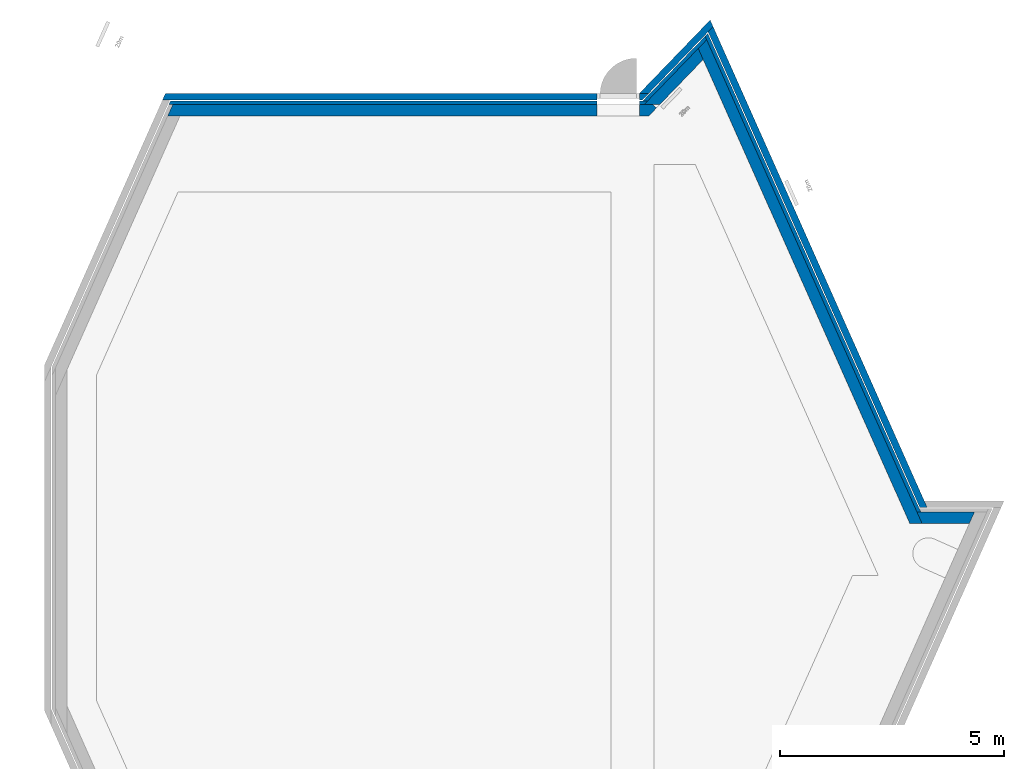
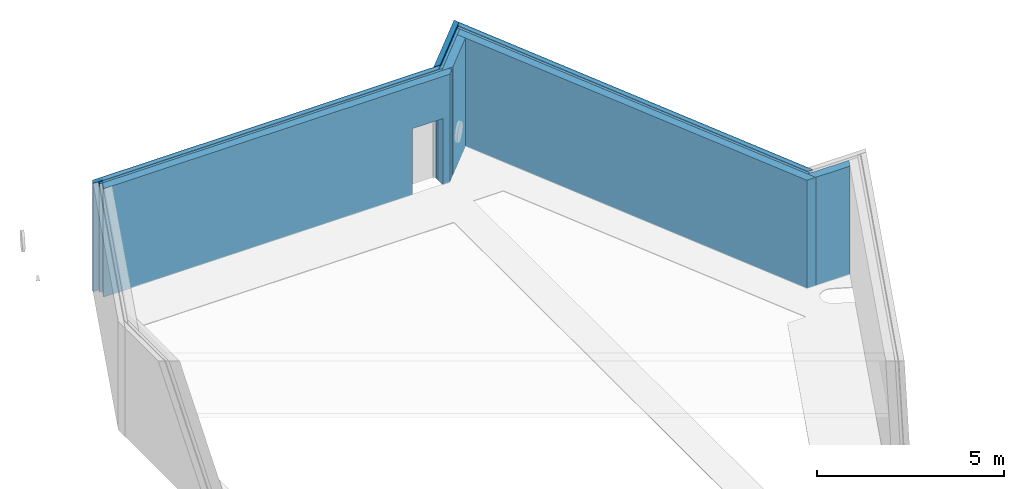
# One storey, part 2 of 4: 10 walls, 4 openings.
"""IFC2X3 building model written with IfcOpenShell, lengths in millimetres."""

from ifc_helpers import new_model, entity, si_unit, converted_unit, derived_unit, direction, frame, frame_2d, origin, place, context, subcontext, project, spatial, polyline, rectangle, outline, extrude, clip, halfspace, faceted_brep, material, layer, layer_set, layer_usage, type_object, element, save


model = new_model("IFC2X3")

# Units and contexts
model_context = context("Model", 3, precision=0.01, world=origin(), true_north=direction((6.123031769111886e-17, 1.0)))
body_context = subcontext(model_context, "Body", "Model", "MODEL_VIEW")
ifc_project = project(units=[si_unit("LENGTHUNIT", "METRE", prefix="MILLI"), si_unit("AREAUNIT", "SQUARE_METRE"), si_unit("VOLUMEUNIT", "CUBIC_METRE"), converted_unit("PLANEANGLEUNIT", "DEGREE", entity("IfcRatioMeasure", 0.017453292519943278), si_unit("PLANEANGLEUNIT", "RADIAN"), dimensions=[0, 0, 0, 0, 0, 0, 0]), si_unit("MASSUNIT", "GRAM", prefix="KILO"), derived_unit("MASSDENSITYUNIT", [(si_unit("MASSUNIT", "GRAM", prefix="KILO"), 1), (si_unit("LENGTHUNIT", "METRE"), -3)]), derived_unit("MOMENTOFINERTIAUNIT", [(si_unit("LENGTHUNIT", "METRE"), 4)]), si_unit("TIMEUNIT", "SECOND"), si_unit("FREQUENCYUNIT", "HERTZ"), si_unit("THERMODYNAMICTEMPERATUREUNIT", "DEGREE_CELSIUS"), derived_unit("THERMALTRANSMITTANCEUNIT", [(si_unit("MASSUNIT", "GRAM", prefix="KILO"), 1), (si_unit("THERMODYNAMICTEMPERATUREUNIT", "KELVIN"), -1), (si_unit("TIMEUNIT", "SECOND"), -3)]), derived_unit("VOLUMETRICFLOWRATEUNIT", [(si_unit("LENGTHUNIT", "METRE"), 3), (si_unit("TIMEUNIT", "SECOND"), -1)]), derived_unit("MASSFLOWRATEUNIT", [(si_unit("MASSUNIT", "GRAM", prefix="KILO"), 1), (si_unit("TIMEUNIT", "SECOND"), -1)]), derived_unit("ROTATIONALFREQUENCYUNIT", [(si_unit("TIMEUNIT", "SECOND"), -1)]), si_unit("ELECTRICCURRENTUNIT", "AMPERE"), si_unit("ELECTRICVOLTAGEUNIT", "VOLT"), si_unit("POWERUNIT", "WATT"), si_unit("FORCEUNIT", "NEWTON", prefix="KILO"), si_unit("ILLUMINANCEUNIT", "LUX"), si_unit("LUMINOUSFLUXUNIT", "LUMEN"), si_unit("LUMINOUSINTENSITYUNIT", "CANDELA"), derived_unit("USERDEFINED", [(si_unit("MASSUNIT", "GRAM", prefix="KILO"), -1), (si_unit("LENGTHUNIT", "METRE"), -2), (si_unit("TIMEUNIT", "SECOND"), 3), (si_unit("LUMINOUSFLUXUNIT", "LUMEN"), 1)]), derived_unit("SOUNDPOWERUNIT", [(si_unit("MASSUNIT", "GRAM", prefix="KILO"), 1), (si_unit("LENGTHUNIT", "METRE"), 2), (si_unit("TIMEUNIT", "SECOND"), -3)]), derived_unit("SOUNDPRESSUREUNIT", [(si_unit("MASSUNIT", "GRAM", prefix="KILO"), 1), (si_unit("LENGTHUNIT", "METRE"), -1), (si_unit("TIMEUNIT", "SECOND"), -2)]), derived_unit("LINEARVELOCITYUNIT", [(si_unit("LENGTHUNIT", "METRE"), 1), (si_unit("TIMEUNIT", "SECOND"), -1)]), si_unit("PRESSUREUNIT", "PASCAL"), derived_unit("USERDEFINED", [(si_unit("LENGTHUNIT", "METRE"), -2), (si_unit("MASSUNIT", "GRAM", prefix="KILO"), 1), (si_unit("TIMEUNIT", "SECOND"), -2)]), derived_unit("LINEARFORCEUNIT", [(si_unit("MASSUNIT", "GRAM", prefix="KILO"), 1), (si_unit("LENGTHUNIT", "METRE"), 1), (si_unit("TIMEUNIT", "SECOND"), -2), (si_unit("LENGTHUNIT", "METRE"), -1)]), derived_unit("PLANARFORCEUNIT", [(si_unit("MASSUNIT", "GRAM", prefix="KILO"), 1), (si_unit("LENGTHUNIT", "METRE"), 1), (si_unit("TIMEUNIT", "SECOND"), -2), (si_unit("LENGTHUNIT", "METRE"), -2)])], contexts=[model_context])

# Site, building, storey
site_placement = place(None, frame((-10000.0, -10000.0, 0.0)))
site = spatial("IfcSite", under=ifc_project, at=site_placement, Name="Default", CompositionType="ELEMENT")
building_placement = place(site_placement, origin())
building = spatial("IfcBuilding", under=site, at=building_placement, CompositionType="ELEMENT")
storey_placement = place(building_placement, frame((0.0, 0.0, 12600.0)))
storey = spatial("IfcBuildingStorey", under=building, at=storey_placement, Name="03 3e verdieping", CompositionType="ELEMENT", Elevation=12600.0)

# Wall, opening
ifc_material_1 = material(Name="NLRS_beton ihwg")
ifc_layer_1 = layer(ifc_material_1, 250.00000000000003)
ifc_layer_set_1 = layer_set([ifc_layer_1], Name="Basic Wall:NLRS_21_WA_beton 250mm_ags")
ifc_layer_usage_1 = layer_usage(ifc_layer_set_1, "AXIS2", "NEGATIVE", 125.00000000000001)
wall_type_1 = type_object("IfcWallType", Name="Basic Wall:NLRS_21_WA_beton 250mm_ags", PredefinedType="STANDARD", material=ifc_layer_set_1)
wall_1_placement = place(storey_placement, frame((28023.813445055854, 49277.0, 0.0)))
wall_1 = element("IfcWallStandardCase", 1, at=wall_1_placement, inside=storey, type_object=wall_type_1, material=ifc_layer_usage_1, Name="Basic Wall:NLRS_21_WA_beton 250mm_ags", ObjectType="Basic Wall:NLRS_21_WA_beton 250mm_ags", context=body_context, shape_type="Clipping", body=[
    clip(extrude(outline(polyline([(10722.450231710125, -125.0), (10890.335858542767, 48.989062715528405), (10811.561564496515, 125.0), (10616.272859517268, 125.0), (111.30717132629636, 125.0), (0.0, -125.0), (273.65906962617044, -125.0), (10722.450231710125, -125.0)])), origin(), (0.0, 0.0, 1.0), 3549.9999999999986), halfspace(frame((0.0, 0.0, -3600.0)), True)),
])
opening_1_placement = place(wall_1_placement, origin())
element("IfcOpeningElement", 2, at=opening_1_placement, cuts=wall_1, Name="Basic Wall:NLRS_21_WA_beton 250mm_ags", ObjectType="Opening", context=body_context, shape_type="SweptSolid", body=[
    extrude(rectangle(XDim=2220.0, YDim=939.9999999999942, at=frame_2d((-1.1368683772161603e-12, 0.0), x_axis=(1.0, 0.0))), frame((10037.45023171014, -125.0, 1060.0), z_axis=(0.0, 1.0, 0.0), x_axis=(0.0, 0.0, -1.0)), (0.0, 0.0, 1.0), 249.99999999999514),
])

# Walls
wall_2_placement = place(storey_placement, frame((39918.91729617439, 50794.82510490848, 0.0), z_axis=(0.0, 0.0, 1.0), x_axis=(0.40673664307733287, -0.9135454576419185, 0.0)))
element("IfcWall", 3, at=wall_2_placement, inside=storey, type_object=wall_type_1, Name="Basic Wall:NLRS_21_WA_beton 250mm_ags", ObjectType="Basic Wall:NLRS_21_WA_beton 250mm_ags", context=body_context, shape_type="Brep", body=[
    faceted_brep([(11686.34128409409, -125.0, 3550.0), (370.79925144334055, -125.0, 3550.0), (101.12221718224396, -125.0, 3550.0), (101.12221718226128, -125.0, 0.0), (11686.34128409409, -125.0, 0.0), (0.0, 125.0, 3550.0), (11523.989385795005, 125.0, 3550.0), (11797.64845542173, 125.0, 3550.0), (11797.64845542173, 125.0, 0.0), (0.0, 125.0, 0.0)], [[[0, 1, 2, 3, 4]], [[5, 6, 7, 8, 9]], [[2, 5, 9, 3]], [[7, 0, 4, 8]], [[1, 0, 7, 6, 5, 2]], [[4, 3, 9, 8]]]),
])
wall_3_placement = place(storey_placement, frame((39935.80622246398, 50564.806749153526, 0.0), z_axis=(0.0, 0.0, 1.0), x_axis=(-0.6943722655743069, -0.7196159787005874, 0.0)))
element("IfcWall", 4, at=wall_3_placement, inside=storey, type_object=wall_type_1, Name="Basic Wall:NLRS_21_WA_beton 250mm_ags", ObjectType="Basic Wall:NLRS_21_WA_beton 250mm_ags", context=body_context, shape_type="Brep", body=[
    faceted_brep([(1736.48629176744, -125.0, 3550.0), (0.0, -125.0, 3550.0), (0.0, -125.0, 0.0), (1736.48629176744, -125.0, 0.0), (101.1222171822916, 125.0, 3550.0), (1495.2561474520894, 125.0, 3550.0), (1495.2561474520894, 125.0, 0.0), (101.1222171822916, 125.0, 0.0)], [[[0, 1, 2, 3]], [[4, 5, 6, 7]], [[1, 0, 5, 4]], [[1, 4, 7, 2]], [[5, 0, 3, 6]], [[3, 2, 7, 6]]]),
])
wall_4_placement = place(storey_placement, frame((44720.339236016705, 40192.97902798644, 0.0)))
element("IfcWall", 5, at=wall_4_placement, inside=storey, type_object=wall_type_1, Name="Basic Wall:NLRS_21_WA_beton 250mm_ags", ObjectType="Basic Wall:NLRS_21_WA_beton 250mm_ags", context=body_context, shape_type="Brep", body=[
    faceted_brep([(1168.2343786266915, -125.0, 3550.0), (111.30717132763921, -125.0, 3550.0), (111.30717132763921, -125.0, 0.0), (1168.2343786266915, -125.0, 0.0), (0.0, 125.0, 3550.0), (1279.5415499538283, 125.0, 3550.0), (1279.5415499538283, 125.0, 0.0), (0.0, 125.0, 0.0)], [[[0, 1, 2, 3]], [[4, 5, 6, 7]], [[1, 0, 5, 4]], [[5, 0, 3, 6]], [[1, 4, 7, 2]], [[3, 2, 7, 6]]]),
])

# Wall, openings
ifc_material_2 = material(Name="NLRS_kalkzandsteen")
ifc_layer_2 = layer(ifc_material_2, 150.0)
ifc_layer_set_2 = layer_set([ifc_layer_2], Name="Basic Wall:NLRS_22_WA_kalkzandsteen 150mm_ags")
ifc_layer_usage_2 = layer_usage(ifc_layer_set_2, "AXIS2", "NEGATIVE", 75.0)
wall_type_2 = type_object("IfcWallType", Name="Basic Wall:NLRS_22_WA_kalkzandsteen 150mm_ags", PredefinedType="STANDARD", material=ifc_layer_set_2)
wall_5_placement = place(storey_placement, frame((27905.984415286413, 49577.0, 0.0)))
wall_5 = element("IfcWallStandardCase", 6, at=wall_5_placement, inside=storey, type_object=wall_type_2, material=ifc_layer_usage_2, Name="Basic Wall:NLRS_22_WA_kalkzandsteen 150mm_ags", ObjectType="Basic Wall:NLRS_22_WA_kalkzandsteen 150mm_ags", context=body_context, shape_type="Clipping", body=[
    clip(extrude(outline(polyline([(10691.741641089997, -75.0), (10836.479727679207, 75.0), (10628.035217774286, 75.0), (66.78430279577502, 75.0), (0.0, -75.0), (164.19544177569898, -75.0), (10691.741641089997, -75.0)])), origin(), (0.0, 0.0, 1.0), 3549.9999999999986), halfspace(frame((0.0, 0.0, -3600.0)), True)),
])
opening_2_placement = place(wall_5_placement, origin())
element("IfcOpeningElement", 7, at=opening_2_placement, cuts=wall_5, Name="Basic Wall:NLRS_22_WA_kalkzandsteen 150mm_ags", ObjectType="Opening", context=body_context, shape_type="SweptSolid", body=[
    extrude(rectangle(XDim=2220.0, YDim=939.9999999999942, at=frame_2d((-1.1368683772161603e-12, 0.0), x_axis=(1.0, 0.0))), frame((10155.27926147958, -75.0, 1060.0), z_axis=(0.0, 1.0, 0.0), x_axis=(0.0, 0.0, -1.0)), (0.0, 0.0, 1.0), 150.00000000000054),
])
opening_3_placement = place(wall_5_placement, origin())
element("IfcOpeningElement", 8, at=opening_3_placement, cuts=wall_5, Name="Basic Wall:NLRS_22_WA_kalkzandsteen 150mm_ags", ObjectType="Opening", context=body_context, shape_type="SweptSolid", body=[
    extrude(rectangle(XDim=2170.0000000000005, YDim=939.9999999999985, at=frame_2d((0.0, 2.1600499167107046e-12), x_axis=(1.0, 0.0))), frame((10155.279261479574, -227.4000000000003, 1085.0), z_axis=(0.0, 1.0, 0.0), x_axis=(0.0, 0.0, 1.0)), (0.0, 0.0, 1.0), 454.8000000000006),
])

# Walls
ifc_layer_usage_3 = layer_usage(ifc_layer_set_2, "AXIS2", "NEGATIVE", 75.0)
wall_6_placement = place(storey_placement, frame((38587.990831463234, 49599.92208008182, 0.0), z_axis=(0.0, 0.0, 1.0), x_axis=(0.6943722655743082, 0.7196159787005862, 0.0)))
element("IfcWallStandardCase", 9, at=wall_6_placement, inside=storey, type_object=wall_type_2, material=ifc_layer_usage_3, Name="Basic Wall:NLRS_22_WA_kalkzandsteen 150mm_ags", ObjectType="Basic Wall:NLRS_22_WA_kalkzandsteen 150mm_ags", context=body_context, shape_type="Clipping", body=[
    clip(extrude(outline(polyline([(2210.0027851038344, -75.0), (2270.676115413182, 75.0), (0.0, 75.0), (144.73808658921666, -75.0), (2048.1965645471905, -75.0), (2210.0027851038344, -75.0)])), origin(), (0.0, 0.0, 1.0), 3549.9999999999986), halfspace(frame((0.0, 0.0, -3600.0)), True)),
])
ifc_layer_usage_4 = layer_usage(ifc_layer_set_2, "AXIS2", "NEGATIVE", 75.0)
wall_7_placement = place(storey_placement, frame((40108.01076136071, 51107.692229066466, 0.0), z_axis=(0.0, 0.0, 1.0), x_axis=(0.4067366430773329, -0.9135454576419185, 0.0)))
element("IfcWallStandardCase", 10, at=wall_7_placement, inside=storey, type_object=wall_type_2, material=ifc_layer_usage_4, Name="Basic Wall:NLRS_22_WA_kalkzandsteen 150mm_ags", ObjectType="Basic Wall:NLRS_22_WA_kalkzandsteen 150mm_ags", context=body_context, shape_type="Clipping", body=[
    clip(extrude(outline(polyline([(11667.955725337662, -75.0), (11734.740028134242, 75.0), (11570.544586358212, 75.0), (0.0, 75.0), (60.67333030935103, -75.0), (11667.955725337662, -75.0)])), origin(), (0.0, 0.0, 1.0), 3549.9999999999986), halfspace(frame((0.0, 0.0, -3600.0)), True)),
])

# Wall, opening
ifc_material_3 = material(Name="NLRS_isolatie")
ifc_layer_3 = layer(ifc_material_3, 80.0)
ifc_layer_set_3 = layer_set([ifc_layer_3], Name="Basic Wall:NLRS_21_WA_isolatie 80mm_ags")
ifc_layer_usage_5 = layer_usage(ifc_layer_set_3, "AXIS2", "NEGATIVE", 40.0)
wall_type_3 = type_object("IfcWallType", Name="Basic Wall:NLRS_21_WA_isolatie 80mm_ags", PredefinedType="STANDARD", material=ifc_layer_set_3)
wall_8_placement = place(storey_placement, frame((38717.27995075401, 49442.0, 0.0), z_axis=(0.0, 0.0, 1.0), x_axis=(-1.0, 0.0, 0.0)))
wall_8 = element("IfcWallStandardCase", 11, at=wall_8_placement, inside=storey, type_object=wall_type_3, material=ifc_layer_usage_5, Name="Basic Wall:NLRS_21_WA_isolatie 80mm_ags", ObjectType="Basic Wall:NLRS_21_WA_isolatie 80mm_ags", context=body_context, shape_type="Clipping", body=[
    clip(extrude(outline(polyline([(10634.111941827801, -40.0), (10669.730236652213, 40.0), (10582.159334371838, 40.0), (77.19364618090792, 40.0), (0.0, -40.0), (111.17040528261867, -40.0), (10634.111941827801, -40.0)])), origin(), (0.0, 0.0, 1.0), 3549.9999999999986), halfspace(frame((0.0, 0.0, -8400.0)), True)),
])
opening_4_placement = place(wall_8_placement, origin())
element("IfcOpeningElement", 12, at=opening_4_placement, cuts=wall_8, Name="Basic Wall:NLRS_21_WA_isolatie 80mm_ags", ObjectType="Opening", context=body_context, shape_type="SweptSolid", body=[
    extrude(rectangle(XDim=2220.0, YDim=939.9999999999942, at=frame_2d((-1.1368683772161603e-12, 0.0), x_axis=(1.0, 0.0))), frame((656.0162739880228, -40.0, 1060.0), z_axis=(0.0, 1.0, 0.0), x_axis=(0.0, 0.0, -1.0)), (0.0, 0.0, 1.0), 79.99999999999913),
])

# Walls
ifc_layer_usage_6 = layer_usage(ifc_layer_set_3, "AXIS2", "NEGATIVE", 40.0)
wall_9_placement = place(storey_placement, frame((44771.368319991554, 40301.70956226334, 0.0), z_axis=(0.0, 0.0, 1.0), x_axis=(-0.4067366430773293, 0.9135454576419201, 0.0)))
element("IfcWallStandardCase", 13, at=wall_9_placement, inside=storey, type_object=wall_type_3, material=ifc_layer_usage_6, Name="Basic Wall:NLRS_21_WA_isolatie 80mm_ags", ObjectType="Basic Wall:NLRS_21_WA_isolatie 80mm_ags", context=body_context, shape_type="Clipping", body=[
    clip(extrude(outline(polyline([(11678.26344108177, -40.0), (11645.904331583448, 40.0), (11559.6076806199, 40.0), (35.61829482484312, 40.0), (0.0, -40.0), (87.57090228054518, -40.0), (11678.26344108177, -40.0)])), origin(), (0.0, 0.0, 1.0), 3549.9999999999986), halfspace(frame((0.0, 0.0, -8400.0)), True)),
])
ifc_layer_usage_7 = layer_usage(ifc_layer_set_3, "AXIS2", "NEGATIVE", 40.0)
wall_10_placement = place(storey_placement, frame((40026.79510740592, 50896.7282081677, 0.0), z_axis=(0.0, 0.0, 1.0), x_axis=(-0.6943722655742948, -0.7196159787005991, 0.0)))
element("IfcWallStandardCase", 14, at=wall_10_placement, inside=storey, type_object=wall_type_3, material=ifc_layer_usage_7, Name="Basic Wall:NLRS_21_WA_isolatie 80mm_ags", ObjectType="Basic Wall:NLRS_21_WA_isolatie 80mm_ags", context=body_context, shape_type="Clipping", body=[
    clip(extrude(outline(polyline([(0.0, -40.0), (2004.5456764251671, -40.0), (1927.3520302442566, 40.0), (32.35910949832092, 40.0), (0.0, -40.0)])), origin(), (0.0, 0.0, 1.0), 3549.9999999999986), halfspace(frame((0.0, 0.0, -8400.0)), True)),
])

save(model, "model.ifc")
